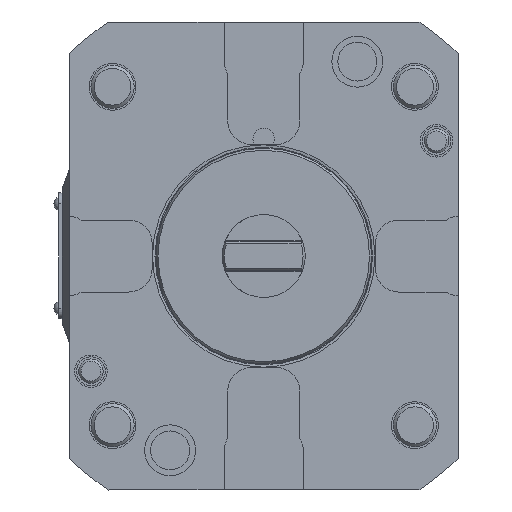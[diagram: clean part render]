
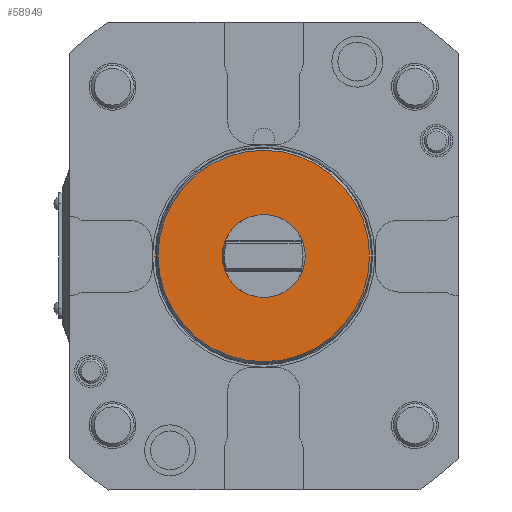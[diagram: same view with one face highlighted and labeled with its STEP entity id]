
A CAD part, left-side view. The second image highlights one B-rep face of the part: STEP entity #58949.
In plain terms, the highlighted planar face has unit normal (-1, 0, 0).
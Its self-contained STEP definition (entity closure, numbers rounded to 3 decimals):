
#28960=PLANE('',#57285);
#32292=ORIENTED_EDGE('',*,*,#37287,.T.);
#32293=ORIENTED_EDGE('',*,*,#37288,.F.);
#33890=CIRCLE('',#57284,29.373);
#33891=CIRCLE('',#57286,11.5);
#35261=VERTEX_POINT('',#53643);
#35262=VERTEX_POINT('',#53646);
#37287=EDGE_CURVE('',#35261,#35261,#33890,.T.);
#37288=EDGE_CURVE('',#35262,#35262,#33891,.T.);
#38737=EDGE_LOOP('',(#32292));
#38738=EDGE_LOOP('',(#32293));
#40122=FACE_BOUND('',#38737,.T.);
#40123=FACE_BOUND('',#38738,.T.);
#43689=DIRECTION('',(-1.,0.,0.));
#43690=DIRECTION('',(0.,0.,29.373));
#43691=DIRECTION('',(-1.,0.,0.));
#43692=DIRECTION('',(0.,1.,0.));
#43693=DIRECTION('',(-1.,0.,0.));
#43694=DIRECTION('',(0.,0.,-11.5));
#53643=CARTESIAN_POINT('',(-44.,0.,29.373));
#53644=CARTESIAN_POINT('',(-44.,0.,0.));
#53645=CARTESIAN_POINT('',(-44.,0.,0.));
#53646=CARTESIAN_POINT('',(-44.,0.,-11.5));
#53647=CARTESIAN_POINT('',(-44.,0.,0.));
#57284=AXIS2_PLACEMENT_3D('',#53644,#43689,#43690);
#57285=AXIS2_PLACEMENT_3D('',#53645,#43691,#43692);
#57286=AXIS2_PLACEMENT_3D('',#53647,#43693,#43694);
#58949=ADVANCED_FACE('',(#40122,#40123),#28960,.T.);
